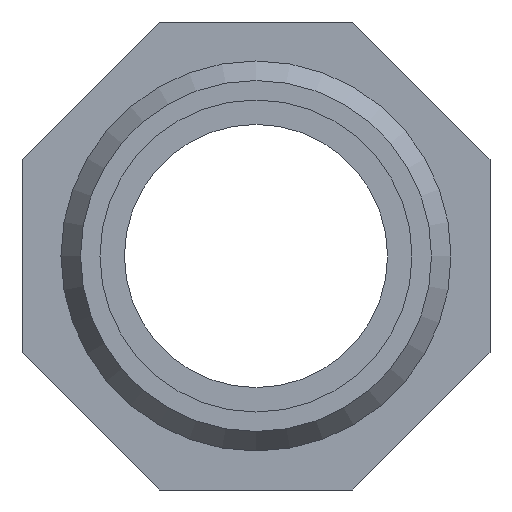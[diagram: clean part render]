
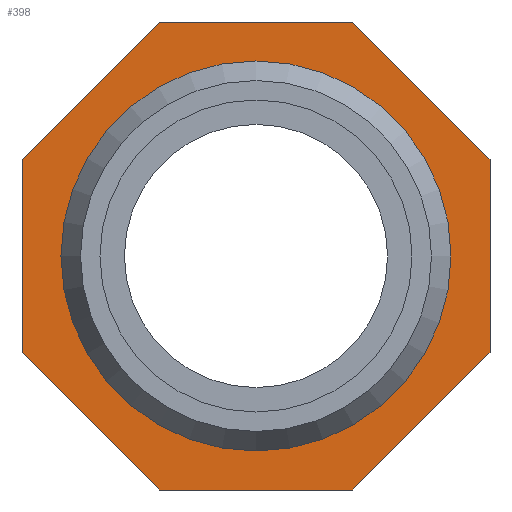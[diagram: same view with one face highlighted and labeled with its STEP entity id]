
A CAD part, front view. The second image highlights one B-rep face of the part: STEP entity #398.
In plain terms, the highlighted planar face has unit normal (0, -1, 0).
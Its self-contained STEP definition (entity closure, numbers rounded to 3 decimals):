
#18=LINE('',#3636,#45);
#19=LINE('',#3638,#46);
#20=LINE('',#3640,#47);
#21=LINE('',#3642,#48);
#22=LINE('',#3644,#49);
#23=LINE('',#3646,#50);
#24=LINE('',#3648,#51);
#25=LINE('',#3649,#52);
#45=VECTOR('',#499,9.941);
#46=VECTOR('',#500,9.941);
#47=VECTOR('',#501,9.941);
#48=VECTOR('',#502,9.941);
#49=VECTOR('',#503,9.941);
#50=VECTOR('',#504,9.941);
#51=VECTOR('',#505,9.941);
#52=VECTOR('',#506,9.941);
#90=PLANE('',#434);
#114=FACE_BOUND('',#168,.T.);
#132=FACE_OUTER_BOUND('',#167,.T.);
#167=EDGE_LOOP('',(#327,#328,#329,#330,#331,#332,#333,#334));
#168=EDGE_LOOP('',(#335));
#181=CIRCLE('',#414,10.);
#194=VERTEX_POINT('',#548);
#212=VERTEX_POINT('',#3634);
#213=VERTEX_POINT('',#3635);
#214=VERTEX_POINT('',#3637);
#215=VERTEX_POINT('',#3639);
#216=VERTEX_POINT('',#3641);
#217=VERTEX_POINT('',#3643);
#218=VERTEX_POINT('',#3645);
#219=VERTEX_POINT('',#3647);
#230=EDGE_CURVE('',#194,#194,#181,.T.);
#255=EDGE_CURVE('',#212,#213,#18,.T.);
#256=EDGE_CURVE('',#213,#214,#19,.T.);
#257=EDGE_CURVE('',#214,#215,#20,.T.);
#258=EDGE_CURVE('',#215,#216,#21,.T.);
#259=EDGE_CURVE('',#216,#217,#22,.T.);
#260=EDGE_CURVE('',#217,#218,#23,.T.);
#261=EDGE_CURVE('',#218,#219,#24,.T.);
#262=EDGE_CURVE('',#219,#212,#25,.T.);
#327=ORIENTED_EDGE('',*,*,#255,.T.);
#328=ORIENTED_EDGE('',*,*,#256,.T.);
#329=ORIENTED_EDGE('',*,*,#257,.T.);
#330=ORIENTED_EDGE('',*,*,#258,.T.);
#331=ORIENTED_EDGE('',*,*,#259,.T.);
#332=ORIENTED_EDGE('',*,*,#260,.T.);
#333=ORIENTED_EDGE('',*,*,#261,.T.);
#334=ORIENTED_EDGE('',*,*,#262,.T.);
#335=ORIENTED_EDGE('',*,*,#230,.T.);
#398=ADVANCED_FACE('',(#132,#114),#90,.T.);
#414=AXIS2_PLACEMENT_3D('',#549,#454,#455);
#434=AXIS2_PLACEMENT_3D('',#3633,#497,#498);
#454=DIRECTION('center_axis',(0.,1.,0.));
#455=DIRECTION('ref_axis',(-1.,0.,0.));
#497=DIRECTION('center_axis',(0.,-1.,0.));
#498=DIRECTION('ref_axis',(0.,0.,-1.));
#499=DIRECTION('',(-1.,0.,0.));
#500=DIRECTION('',(-0.707,0.,-0.707));
#501=DIRECTION('',(0.,0.,-1.));
#502=DIRECTION('',(0.707,0.,-0.707));
#503=DIRECTION('',(1.,0.,0.));
#504=DIRECTION('',(0.707,0.,0.707));
#505=DIRECTION('',(0.,0.,1.));
#506=DIRECTION('',(-0.707,0.,0.707));
#548=CARTESIAN_POINT('',(10.,-6.,0.));
#549=CARTESIAN_POINT('Origin',(0.,-6.,0.));
#3633=CARTESIAN_POINT('Origin',(0.,-6.,0.));
#3634=CARTESIAN_POINT('',(4.971,-6.,12.));
#3635=CARTESIAN_POINT('',(-4.971,-6.,12.));
#3636=CARTESIAN_POINT('',(4.971,-6.,12.));
#3637=CARTESIAN_POINT('',(-12.,-6.,4.971));
#3638=CARTESIAN_POINT('',(-4.971,-6.,12.));
#3639=CARTESIAN_POINT('',(-12.,-6.,-4.971));
#3640=CARTESIAN_POINT('',(-12.,-6.,4.971));
#3641=CARTESIAN_POINT('',(-4.971,-6.,-12.));
#3642=CARTESIAN_POINT('',(-12.,-6.,-4.971));
#3643=CARTESIAN_POINT('',(4.971,-6.,-12.));
#3644=CARTESIAN_POINT('',(-4.971,-6.,-12.));
#3645=CARTESIAN_POINT('',(12.,-6.,-4.971));
#3646=CARTESIAN_POINT('',(4.971,-6.,-12.));
#3647=CARTESIAN_POINT('',(12.,-6.,4.971));
#3648=CARTESIAN_POINT('',(12.,-6.,-4.971));
#3649=CARTESIAN_POINT('',(12.,-6.,4.971));
